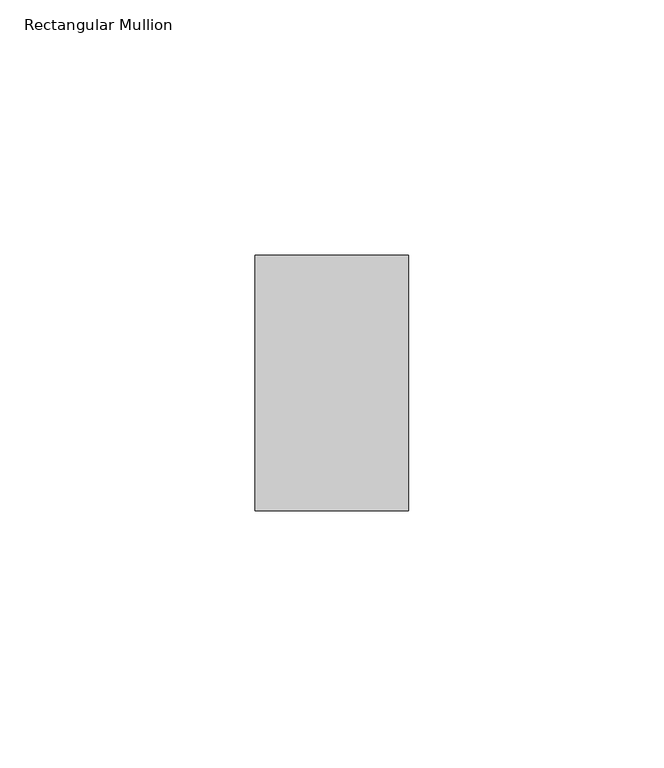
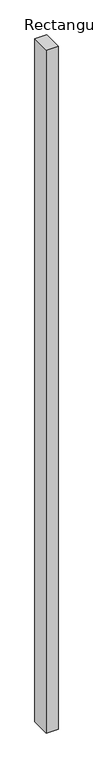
"""IFC4 building model written with IfcOpenShell, lengths in millimetres: member geometry, Rectangular Mullion : ARQ_REJA_MULL_50x30mm."""

from ifc_helpers import new_model, si_unit, frame, origin, place, context, project, spatial, polyline, outline, extrude, source, transform, mapped, element, save


def rectangular_mullion_b59bd4ae(model_context):
    return source(origin(), model_context, "Body", "SweptSolid", [
        extrude(outline(polyline([(0.0, 25.0), (0.0, -25.0), (-30.0, -25.0), (-30.0, 25.0), (0.0, 25.0)])), frame((0.0, 0.0, -1840.0), z_axis=(0.0, 0.0, 1.0), x_axis=(1.0, 0.0, 0.0)), (0.0, 0.0, 1.0), 1840.0),
    ])


if __name__ == "__main__":
    model = new_model("IFC4")
    model_context = context("Model", 3, world=origin())
    ifc_project = project(units=[si_unit("LENGTHUNIT", "METRE", prefix="MILLI")], contexts=[model_context])
    site = spatial("IfcSite", under=ifc_project)
    building = spatial("IfcBuilding", under=site)
    placement = place(None, origin())
    rectangular_mullion_shape = rectangular_mullion_b59bd4ae(model_context)
    element("IfcMember", 1, ObjectType="Rectangular Mullion : ARQ_REJA_MULL_50x30mm", at=placement, inside=building, context=model_context, shape_type="MappedRepresentation", body=[
        mapped(rectangular_mullion_shape, transform((0.0, 0.0, 0.0), x_axis=(1.0, 0.0, 0.0), y_axis=(0.0, 1.0, 0.0), z_axis=(0.0, 0.0, 1.0))),
    ])
    save(model, "model.ifc")
